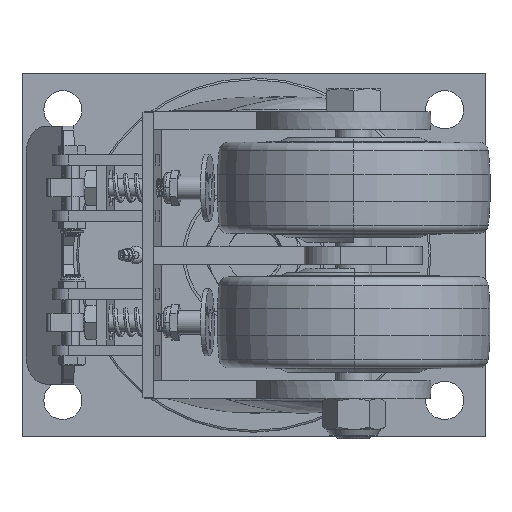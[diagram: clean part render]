
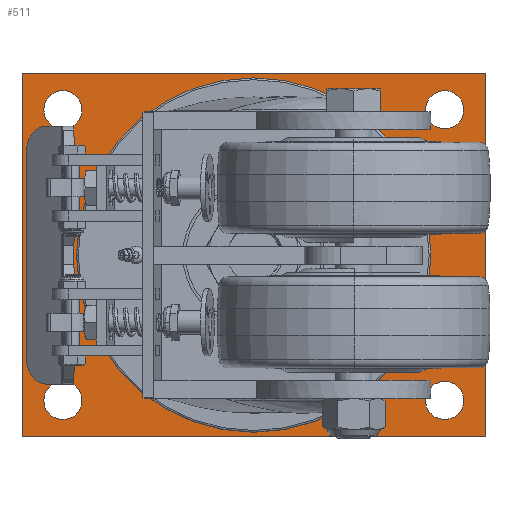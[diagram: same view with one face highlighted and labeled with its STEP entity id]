
A CAD part, front view. The second image highlights one B-rep face of the part: STEP entity #511.
In plain terms, the highlighted planar face has unit normal (0, -1, 0).
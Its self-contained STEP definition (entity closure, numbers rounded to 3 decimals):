
#118=CARTESIAN_POINT('',(0.,-20.,0.));
#119=DIRECTION('',(0.,-1.,0.));
#120=DIRECTION('',(1.,0.,0.));
#121=AXIS2_PLACEMENT_3D('',#118,#119,#120);
#123=CARTESIAN_POINT('',(0.,-20.,0.));
#124=DIRECTION('',(0.,-1.,0.));
#125=DIRECTION('',(-1.,0.,0.));
#126=AXIS2_PLACEMENT_3D('',#123,#124,#125);
#128=CARTESIAN_POINT('',(105.,-20.,80.));
#129=DIRECTION('',(0.,1.,0.));
#130=DIRECTION('',(-1.,0.,0.));
#131=AXIS2_PLACEMENT_3D('',#128,#129,#130);
#133=CARTESIAN_POINT('',(105.,-20.,80.));
#134=DIRECTION('',(0.,1.,0.));
#135=DIRECTION('',(1.,0.,0.));
#136=AXIS2_PLACEMENT_3D('',#133,#134,#135);
#138=CARTESIAN_POINT('',(105.,-20.,-80.));
#139=DIRECTION('',(0.,1.,0.));
#140=DIRECTION('',(-1.,0.,0.));
#141=AXIS2_PLACEMENT_3D('',#138,#139,#140);
#143=CARTESIAN_POINT('',(105.,-20.,-80.));
#144=DIRECTION('',(0.,1.,0.));
#145=DIRECTION('',(1.,0.,0.));
#146=AXIS2_PLACEMENT_3D('',#143,#144,#145);
#148=CARTESIAN_POINT('',(-105.,-20.,-80.));
#149=DIRECTION('',(0.,1.,0.));
#150=DIRECTION('',(-1.,0.,0.));
#151=AXIS2_PLACEMENT_3D('',#148,#149,#150);
#153=CARTESIAN_POINT('',(-105.,-20.,-80.));
#154=DIRECTION('',(0.,1.,0.));
#155=DIRECTION('',(1.,0.,0.));
#156=AXIS2_PLACEMENT_3D('',#153,#154,#155);
#158=CARTESIAN_POINT('',(-105.,-20.,80.));
#159=DIRECTION('',(0.,1.,0.));
#160=DIRECTION('',(-1.,0.,0.));
#161=AXIS2_PLACEMENT_3D('',#158,#159,#160);
#163=CARTESIAN_POINT('',(-105.,-20.,80.));
#164=DIRECTION('',(0.,1.,0.));
#165=DIRECTION('',(1.,0.,0.));
#166=AXIS2_PLACEMENT_3D('',#163,#164,#165);
#168=DIRECTION('',(-1.,0.,0.));
#169=VECTOR('',#168,255.);
#170=CARTESIAN_POINT('',(127.5,-20.,100.));
#171=LINE('',#170,#169);
#172=DIRECTION('',(0.,0.,1.));
#173=VECTOR('',#172,200.);
#174=CARTESIAN_POINT('',(127.5,-20.,-100.));
#175=LINE('',#174,#173);
#176=DIRECTION('',(1.,0.,0.));
#177=VECTOR('',#176,255.);
#178=CARTESIAN_POINT('',(-127.5,-20.,-100.));
#179=LINE('',#178,#177);
#180=DIRECTION('',(0.,0.,-1.));
#181=VECTOR('',#180,200.);
#182=CARTESIAN_POINT('',(-127.5,-20.,100.));
#183=LINE('',#182,#181);
#284=CARTESIAN_POINT('',(95.,-20.,0.));
#285=CARTESIAN_POINT('',(-95.,-20.,0.));
#286=VERTEX_POINT('',#284);
#287=VERTEX_POINT('',#285);
#312=CARTESIAN_POINT('',(94.5,-20.,80.));
#313=CARTESIAN_POINT('',(115.5,-20.,80.));
#314=VERTEX_POINT('',#312);
#315=VERTEX_POINT('',#313);
#316=CARTESIAN_POINT('',(94.5,-20.,-80.));
#317=CARTESIAN_POINT('',(115.5,-20.,-80.));
#318=VERTEX_POINT('',#316);
#319=VERTEX_POINT('',#317);
#320=CARTESIAN_POINT('',(-115.5,-20.,-80.));
#321=CARTESIAN_POINT('',(-94.5,-20.,-80.));
#322=VERTEX_POINT('',#320);
#323=VERTEX_POINT('',#321);
#324=CARTESIAN_POINT('',(-115.5,-20.,80.));
#325=CARTESIAN_POINT('',(-94.5,-20.,80.));
#326=VERTEX_POINT('',#324);
#327=VERTEX_POINT('',#325);
#328=CARTESIAN_POINT('',(127.5,-20.,100.));
#329=CARTESIAN_POINT('',(-127.5,-20.,100.));
#330=VERTEX_POINT('',#328);
#331=VERTEX_POINT('',#329);
#332=CARTESIAN_POINT('',(-127.5,-20.,-100.));
#333=VERTEX_POINT('',#332);
#334=CARTESIAN_POINT('',(127.5,-20.,-100.));
#335=VERTEX_POINT('',#334);
#466=CARTESIAN_POINT('',(0.,-20.,0.));
#467=DIRECTION('',(0.,-1.,0.));
#468=DIRECTION('',(-1.,0.,0.));
#469=AXIS2_PLACEMENT_3D('',#466,#467,#468);
#470=PLANE('',#469);
#472=ORIENTED_EDGE('',*,*,#471,.F.);
#474=ORIENTED_EDGE('',*,*,#473,.F.);
#476=ORIENTED_EDGE('',*,*,#475,.F.);
#478=ORIENTED_EDGE('',*,*,#477,.F.);
#479=EDGE_LOOP('',(#472,#474,#476,#478));
#480=FACE_OUTER_BOUND('',#479,.F.);
#482=ORIENTED_EDGE('',*,*,#481,.F.);
#484=ORIENTED_EDGE('',*,*,#483,.F.);
#485=EDGE_LOOP('',(#482,#484));
#486=FACE_BOUND('',#485,.F.);
#488=ORIENTED_EDGE('',*,*,#487,.F.);
#490=ORIENTED_EDGE('',*,*,#489,.F.);
#491=EDGE_LOOP('',(#488,#490));
#492=FACE_BOUND('',#491,.F.);
#494=ORIENTED_EDGE('',*,*,#493,.F.);
#496=ORIENTED_EDGE('',*,*,#495,.F.);
#497=EDGE_LOOP('',(#494,#496));
#498=FACE_BOUND('',#497,.F.);
#500=ORIENTED_EDGE('',*,*,#499,.F.);
#502=ORIENTED_EDGE('',*,*,#501,.F.);
#503=EDGE_LOOP('',(#500,#502));
#504=FACE_BOUND('',#503,.F.);
#506=ORIENTED_EDGE('',*,*,#505,.T.);
#508=ORIENTED_EDGE('',*,*,#507,.T.);
#509=EDGE_LOOP('',(#506,#508));
#510=FACE_BOUND('',#509,.F.);
#122=CIRCLE('',#121,95.);
#127=CIRCLE('',#126,95.);
#132=CIRCLE('',#131,10.5);
#137=CIRCLE('',#136,10.5);
#142=CIRCLE('',#141,10.5);
#147=CIRCLE('',#146,10.5);
#152=CIRCLE('',#151,10.5);
#157=CIRCLE('',#156,10.5);
#162=CIRCLE('',#161,10.5);
#167=CIRCLE('',#166,10.5);
#471=EDGE_CURVE('',#330,#331,#171,.T.);
#473=EDGE_CURVE('',#335,#330,#175,.T.);
#475=EDGE_CURVE('',#333,#335,#179,.T.);
#477=EDGE_CURVE('',#331,#333,#183,.T.);
#481=EDGE_CURVE('',#314,#315,#132,.T.);
#483=EDGE_CURVE('',#315,#314,#137,.T.);
#487=EDGE_CURVE('',#318,#319,#142,.T.);
#489=EDGE_CURVE('',#319,#318,#147,.T.);
#493=EDGE_CURVE('',#322,#323,#152,.T.);
#495=EDGE_CURVE('',#323,#322,#157,.T.);
#499=EDGE_CURVE('',#326,#327,#162,.T.);
#501=EDGE_CURVE('',#327,#326,#167,.T.);
#505=EDGE_CURVE('',#286,#287,#122,.T.);
#507=EDGE_CURVE('',#287,#286,#127,.T.);
#511=ADVANCED_FACE('',(#480,#486,#492,#498,#504,#510),#470,.T.);
